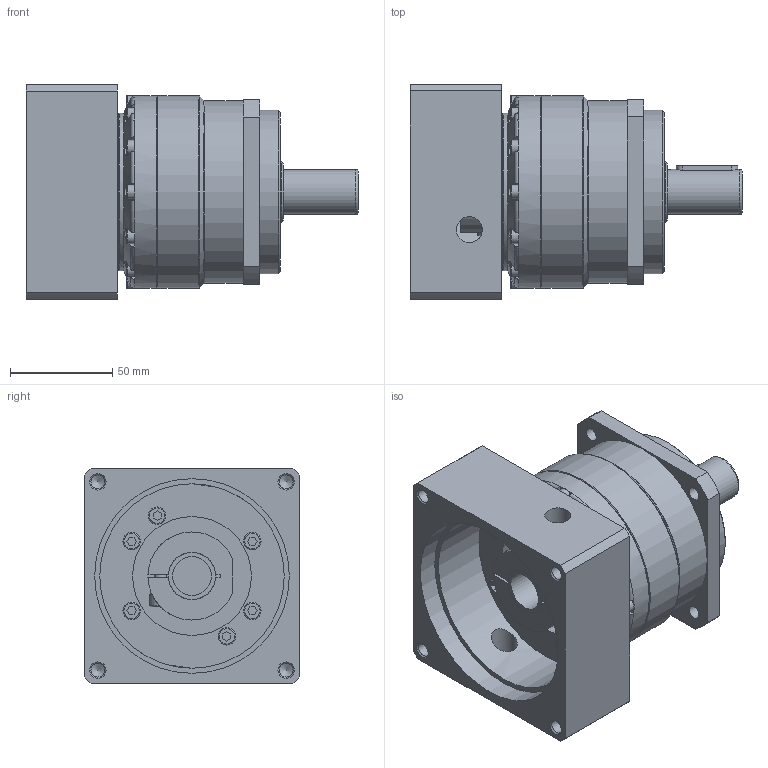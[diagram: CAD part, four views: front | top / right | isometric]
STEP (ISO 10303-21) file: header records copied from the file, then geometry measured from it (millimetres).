
FILE_DESCRIPTION(/* description */ (''),/* implementation_level */ '2;1');
FILE_NAME(/* name */ 'WEB090-L1-95-130-M8-19-56-边105.stp',/* time_stamp */ '2025-08-13T14:10:46+08:00',/* author */ (''),/* organization */ (''),/* preprocessor_version */ 'ST-DEVELOPER v16.7',/* originating_system */ 'SIEMENS PLM Software NX 12.0',/* authorisation */ '');
FILE_SCHEMA (('AUTOMOTIVE_DESIGN { 1 0 10303 214 3 1 1 1 }'));
Length unit declared in the file: millimetre
Products named in the file (2): DZ090-95-130-M8x20-13.5-105-45; WEB090-L1-70-90-M6-19-41_stp
Assembly tree (1 placements, depth 2):
  WEB090-L1-70-90-M6-19-41_stp
    DZ090-95-130-M8x20-13.5-105-45
Bounding box: 162 x 105 x 105 mm (x, y, z)
Volume: 757824.6 mm3; surface area: 121500.9 mm2
Topology: 5 solids, 5 shells, 365 faces, 891 edges, 577 vertices
Faces by surface type: plane 234, cylinder 77, torus 34, cone 20
Full cylindrical faces by diameter (mm): 6 x1, 6.5 x1, 6.6 x4, 6.647 x5, 7 x12, 8.5 x6, 9.88 x1, 10 x1, 12.7 x2, 19 x1, 22 x1, 23 x1, 30 x2, 35 x1, 58 x1, 77 x2, 80 x1, 89 x1, 90 x1, 94 x2, 95 x1
Entity records: 12797 total; most frequent: CARTESIAN_POINT 2290, DIRECTION 1670, ORIENTED_EDGE 1554, EDGE_CURVE 777, AXIS2_PLACEMENT_3D 592, VERTEX_POINT 558, EDGE_LOOP 514, LINE 486
